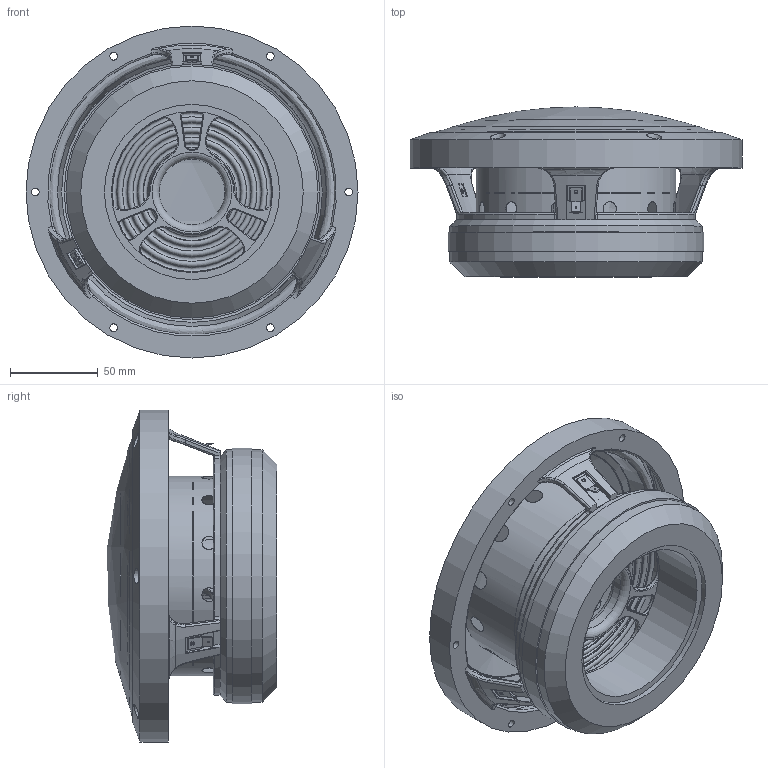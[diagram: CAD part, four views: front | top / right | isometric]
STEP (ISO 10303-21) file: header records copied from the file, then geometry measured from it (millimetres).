
FILE_DESCRIPTION (( 'STEP AP214' ), '1' );
FILE_NAME ('CL190-06-351_reduced.STEP', '2025-03-17T22:08:36', ( '' ), ( '' ), 'SwSTEP 2.0', 'SolidWorks 2015', '' );
FILE_SCHEMA (( 'AUTOMOTIVE_DESIGN' ));
Length unit declared in the file: millimetre
Products named in the file (13): TRM_01465_reduced; TRM_01464_reduced; VC_02847_reduced; CL190-06-351_reduced; TRM_02158_reduced; TRM_01466_reduced; MGS_02885_N146_reduced; KRB_02845_CL190_reduced; ZEN_01724_reduced; KRB_01252_C168_reduced; TRM_01462_reduced; GUS_02879_190_reduced; GLM_02866_CL190_reduced
Assembly tree (13 placements, depth 3):
  CL190-06-351_reduced
    KRB_02845_CL190_reduced
    GLM_02866_CL190_reduced
    GUS_02879_190_reduced
    ZEN_01724_reduced
    MGS_02885_N146_reduced
    KRB_01252_C168_reduced
    VC_02847_reduced
    TRM_02158_reduced
      TRM_01464_reduced
      TRM_01466_reduced
    TRM_01462_reduced
      TRM_01464_reduced
      TRM_01465_reduced
Bounding box: 189.6 x 97.01 x 189.6 mm (x, y, z)
Volume: 460553.1 mm3; surface area: 250236.7 mm2
Topology: 11 solids, 11 shells, 762 faces, 1835 edges, 1090 vertices
Faces by surface type: bspline 227, cylinder 170, plane 140, torus 140, cone 79, sphere 6
Full cylindrical faces by diameter (mm): 1 x2, 3 x6, 92 x1, 100 x2, 113 x1, 113.5 x1, 114 x1, 114.2 x1, 140.945 x1, 144 x2, 146 x1, 171 x1, 173 x2, 189.6 x1
Entity records: 35767 total; most frequent: CARTESIAN_POINT 19667, ORIENTED_EDGE 3316, DIRECTION 2966, EDGE_CURVE 1658, AXIS2_PLACEMENT_3D 1287, VERTEX_POINT 1052, EDGE_LOOP 1000, FACE_OUTER_BOUND 844
